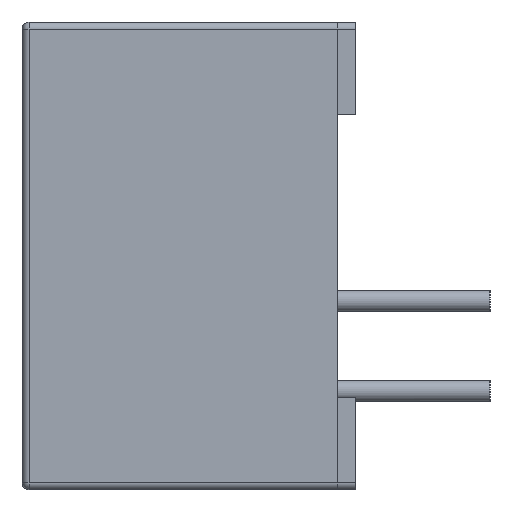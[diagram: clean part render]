
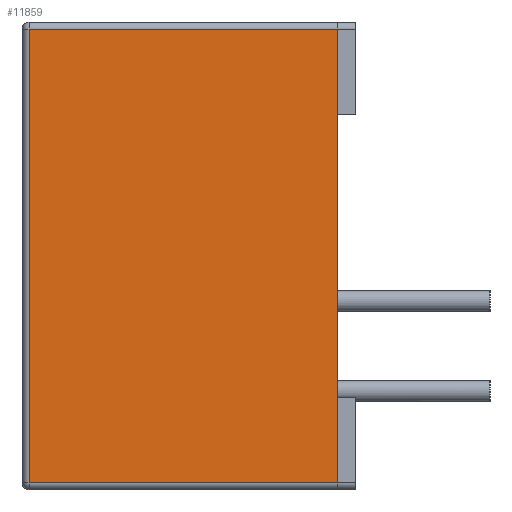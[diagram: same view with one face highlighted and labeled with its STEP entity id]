
A CAD part, left-side view. The second image highlights one B-rep face of the part: STEP entity #11859.
In plain terms, the highlighted planar face has unit normal (-1, 0, 0).
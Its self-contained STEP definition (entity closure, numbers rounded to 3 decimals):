
#11665 = VERTEX_POINT ( 'NONE', #25518 ) ;
#11719 = EDGE_CURVE ( 'NONE', #11720, #11665, #25623, .T. ) ;
#11720 = VERTEX_POINT ( 'NONE', #25619 ) ;
#11776 = VERTEX_POINT ( 'NONE', #25716 ) ;
#11777 = VERTEX_POINT ( 'NONE', #25715 ) ;
#11778 = ORIENTED_EDGE ( 'NONE', *, *, #11779, .T. ) ;
#11779 = EDGE_CURVE ( 'NONE', #11777, #11780, #25714, .T. ) ;
#11780 = VERTEX_POINT ( 'NONE', #25710 ) ;
#11838 = ORIENTED_EDGE ( 'NONE', *, *, #11840, .T. ) ;
#11840 = EDGE_CURVE ( 'NONE', #11780, #11720, #25795, .T. ) ;
#11841 = ORIENTED_EDGE ( 'NONE', *, *, #11719, .T. ) ;
#11842 = ORIENTED_EDGE ( 'NONE', *, *, #11843, .T. ) ;
#11843 = EDGE_CURVE ( 'NONE', #11665, #11844, #25786, .T. ) ;
#11844 = VERTEX_POINT ( 'NONE', #25846 ) ;
#11845 = ORIENTED_EDGE ( 'NONE', *, *, #11846, .T. ) ;
#11846 = EDGE_CURVE ( 'NONE', #11844, #11776, #25845, .T. ) ;
#11859 = ADVANCED_FACE ( 'NONE', ( #25820 ), #25878, .T. ) ;
#11860 = EDGE_LOOP ( 'NONE', ( #11861, #11778, #11838, #11841, #11842, #11845 ) ) ;
#11861 = ORIENTED_EDGE ( 'NONE', *, *, #11862, .T. ) ;
#11862 = EDGE_CURVE ( 'NONE', #11776, #11777, #25879, .T. ) ;
#25518 = CARTESIAN_POINT ( 'NONE',  ( -14.5, 0., 4. ) ) ;
#25619 = CARTESIAN_POINT ( 'NONE',  ( -14.5, 0., -4. ) ) ;
#25620 = DIRECTION ( 'NONE',  ( 0., 0., 1. ) ) ;
#25621 = VECTOR ( 'NONE', #25620, 1000. ) ;
#25622 = CARTESIAN_POINT ( 'NONE',  ( -14.5, 0., 6.6 ) ) ;
#25623 = LINE ( 'NONE', #25622, #25621 ) ;
#25710 = CARTESIAN_POINT ( 'NONE',  ( -14.5, 0., -6.4 ) ) ;
#25711 = DIRECTION ( 'NONE',  ( 0., -1., 0. ) ) ;
#25712 = VECTOR ( 'NONE', #25711, 1000. ) ;
#25713 = CARTESIAN_POINT ( 'NONE',  ( -14.5, 0.005, -6.4 ) ) ;
#25714 = LINE ( 'NONE', #25713, #25712 ) ;
#25715 = CARTESIAN_POINT ( 'NONE',  ( -14.497, 8.69, -6.397 ) ) ;
#25716 = CARTESIAN_POINT ( 'NONE',  ( -14.497, 8.69, 6.397 ) ) ;
#25786 = LINE ( 'NONE', #25849, #25848 ) ;
#25787 = DIRECTION ( 'NONE',  ( 0., 0., 1. ) ) ;
#25788 = VECTOR ( 'NONE', #25787, 1000. ) ;
#25789 = CARTESIAN_POINT ( 'NONE',  ( -14.5, 0., 6.6 ) ) ;
#25795 = LINE ( 'NONE', #25789, #25788 ) ;
#25820 = FACE_OUTER_BOUND ( 'NONE', #11860, .T. ) ;
#25842 = DIRECTION ( 'NONE',  ( 0., 1., 0. ) ) ;
#25843 = VECTOR ( 'NONE', #25842, 1000. ) ;
#25844 = CARTESIAN_POINT ( 'NONE',  ( -14.5, 0., 6.4 ) ) ;
#25845 = LINE ( 'NONE', #25844, #25843 ) ;
#25846 = CARTESIAN_POINT ( 'NONE',  ( -14.5, 0., 6.4 ) ) ;
#25847 = DIRECTION ( 'NONE',  ( 0., 0., 1. ) ) ;
#25848 = VECTOR ( 'NONE', #25847, 1000. ) ;
#25849 = CARTESIAN_POINT ( 'NONE',  ( -14.5, 0., 6.6 ) ) ;
#25871 = DIRECTION ( 'NONE',  ( 0., 0., -1. ) ) ;
#25872 = VECTOR ( 'NONE', #25871, 1000. ) ;
#25873 = CARTESIAN_POINT ( 'NONE',  ( -14.497, 8.69, -6.597 ) ) ;
#25874 = DIRECTION ( 'NONE',  ( 0., -1., 0. ) ) ;
#25875 = DIRECTION ( 'NONE',  ( -1., 0., 0. ) ) ;
#25876 = CARTESIAN_POINT ( 'NONE',  ( -14.5, 0., 6.6 ) ) ;
#25877 = AXIS2_PLACEMENT_3D ( 'NONE', #25876, #25875, #25874 ) ;
#25878 = PLANE ( 'NONE',  #25877 ) ;
#25879 = LINE ( 'NONE', #25873, #25872 ) ;
